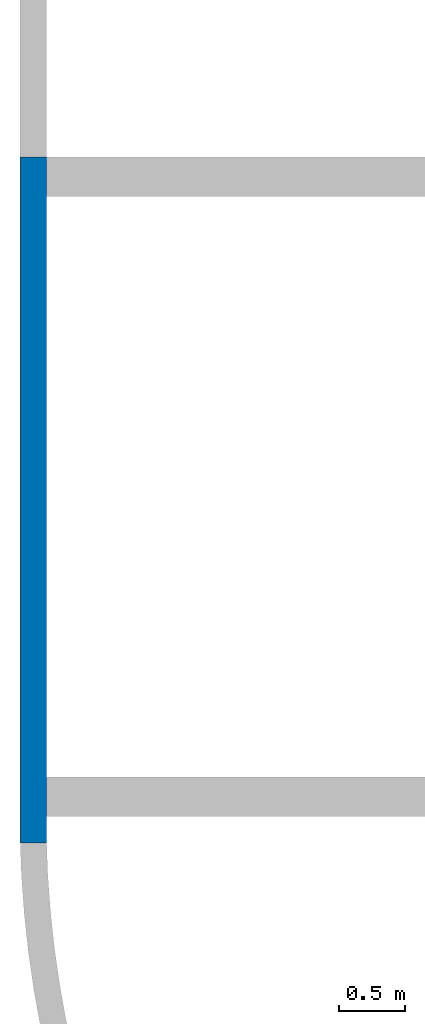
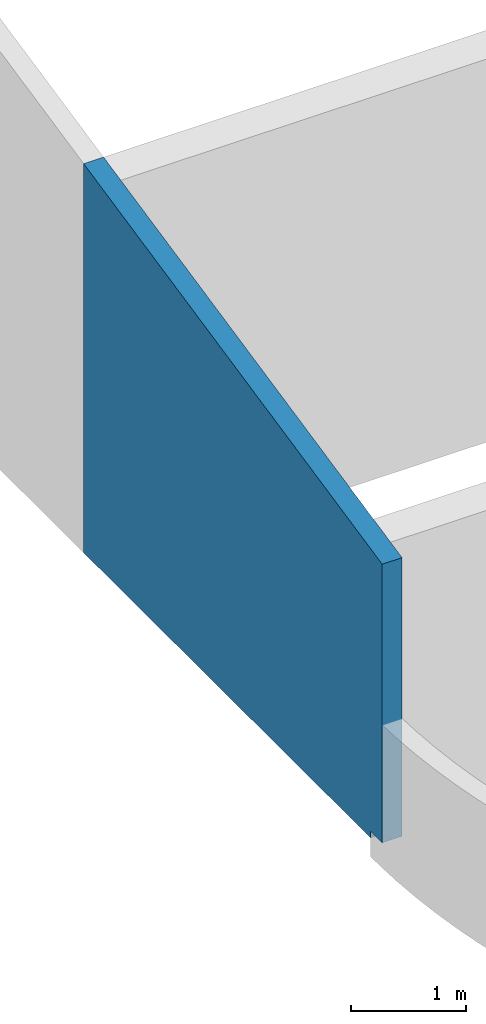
# One storey, part 1 of 7: 1 wall.
"""IFC4 building model written with IfcOpenShell, lengths in millimetres."""

import ifcopenshell
import ifcopenshell.guid

model = None  # the IFC model being written
_history = None  # IfcOwnerHistory: only IFC2X3 demands one
_inside = {}  # id of a spatial element -> (the spatial element, [elements in it])
_under = {}  # id of a project, library or spatial element -> (it, [spatial elements below it])
_declared = {}  # id of a project -> (the project, [libraries it declares])
_typed = {}  # id of a type object -> (the type object, [elements of that type])
_made_of = {}  # id of a material, layer set ... -> (it, [elements and type objects made of it])


def new_model(schema):
    """Start an empty IFC model of exactly this schema.

    Asked for "IFC4X3", IfcOpenShell would pick the latest addendum, in which some entities
    have other attributes; the version numbers below select the first issue.
    IFC2X3 requires an IfcOwnerHistory on every rooted entity: one is made here for all.
    """
    global model, _history
    if schema == "IFC4X3":
        model = ifcopenshell.file(schema_version=(4, 3, 0, 0))
    else:
        model = ifcopenshell.file(schema=schema)
    _inside.clear()
    _under.clear()
    _declared.clear()
    _typed.clear()
    _made_of.clear()
    _history = None
    if model.schema == "IFC2X3":
        org = make("IfcOrganization", Name="unknown")
        user = make(
            "IfcPersonAndOrganization",
            ThePerson=make("IfcPerson", FamilyName="unknown"),
            TheOrganization=org,
        )
        app = make(
            "IfcApplication",
            ApplicationDeveloper=org,
            Version="unknown",
            ApplicationFullName="unknown",
            ApplicationIdentifier="unknown",
        )
        _history = make(
            "IfcOwnerHistory",
            OwningUser=user,
            OwningApplication=app,
            ChangeAction="ADDED",
            CreationDate=0,
        )
    return model


def make(cls, **values):
    """One entity of the class cls with the attributes given. An attribute that is None is left unset."""
    return model.create_entity(
        cls, **{name: value for name, value in values.items() if value is not None}
    )


def entity(cls, *values):
    """Any entity or typed value of the class cls, its attributes in the order of the schema. None: left unset."""
    e = model.create_entity(cls)
    for i, value in enumerate(values):
        if value is not None:
            e[i] = value
    return e


def rooted(cls, **values):
    """An entity with a GlobalId (a new one), such as an element, a storey or a relation."""
    return make(cls, GlobalId=ifcopenshell.guid.new(), OwnerHistory=_history, **values)


def si_unit(unit_type, name, prefix=None):
    """IfcSIUnit, for example si_unit("LENGTHUNIT", "METRE", prefix="MILLI")."""
    return make("IfcSIUnit", UnitType=unit_type, Prefix=prefix, Name=name)


def converted_unit(unit_type, name, factor, base, dimensions=None, offset=None):
    """IfcConversionBasedUnit, such as the inch: factor (a typed value) times the base unit."""
    return make(
        "IfcConversionBasedUnit"
        if offset is None
        else "IfcConversionBasedUnitWithOffset",
        ConversionOffset=offset,
        Dimensions=None
        if dimensions is None
        else entity("IfcDimensionalExponents", *dimensions),
        UnitType=unit_type,
        Name=name,
        ConversionFactor=make(
            "IfcMeasureWithUnit", ValueComponent=factor, UnitComponent=base
        ),
    )


def derived_unit(unit_type, elements):
    """IfcDerivedUnit: a product of units, each with its exponent."""
    return make(
        "IfcDerivedUnit",
        Elements=[
            make("IfcDerivedUnitElement", Unit=unit, Exponent=power)
            for unit, power in elements
        ],
        UnitType=unit_type,
    )


def assignment(units):
    """IfcUnitAssignment: the units of a project."""
    return None if units is None else make("IfcUnitAssignment", Units=units)


def point(xyz):
    """IfcCartesianPoint."""
    return None if xyz is None else make("IfcCartesianPoint", Coordinates=xyz)


def direction(xyz):
    """IfcDirection."""
    return None if xyz is None else make("IfcDirection", DirectionRatios=xyz)


def frame(location, z_axis=None, x_axis=None):
    """IfcAxis2Placement3D, a coordinate frame: its origin and axes. An axis left out is left unset."""
    return make(
        "IfcAxis2Placement3D",
        Location=point(location),
        Axis=direction(z_axis),
        RefDirection=direction(x_axis),
    )


def origin_with_axes():
    """The frame at (0, 0, 0) with the z axis (0, 0, 1) and the x axis (1, 0, 0) written out."""
    return frame((0.0, 0.0, 0.0), z_axis=(0.0, 0.0, 1.0), x_axis=(1.0, 0.0, 0.0))


def place(relative_to, where):
    """IfcLocalPlacement: puts the frame where relative to a parent placement (None: the world)."""
    return make(
        "IfcLocalPlacement", PlacementRelTo=relative_to, RelativePlacement=where
    )


def context(
    kind, dimensions, precision=None, world=None, true_north=None, identifier=None
):
    """IfcGeometricRepresentationContext, for example the 3D "Model" context."""
    return make(
        "IfcGeometricRepresentationContext",
        ContextIdentifier=identifier,
        ContextType=kind,
        CoordinateSpaceDimension=dimensions,
        Precision=precision,
        WorldCoordinateSystem=world,
        TrueNorth=true_north,
    )


def subcontext(parent, identifier, kind, view, scale=None):
    """IfcGeometricRepresentationSubContext, for example "Body" below "Model"."""
    return make(
        "IfcGeometricRepresentationSubContext",
        ContextIdentifier=identifier,
        ContextType=kind,
        ParentContext=parent,
        TargetScale=scale,
        TargetView=view,
    )


def project(units=None, contexts=None):
    """IfcProject with its units and contexts."""
    return rooted(
        "IfcProject",
        Name="project",
        RepresentationContexts=contexts,
        UnitsInContext=assignment(units),
    )


def spatial(cls, under=None, at=None, **own):
    """A site, building, storey or space (cls), placed at a placement, below another one or the project."""
    s = rooted(cls, ObjectPlacement=at, **own)
    if under is not None:
        _under.setdefault(under.id(), (under, []))[1].append(s)
    return s


def point_list(points):
    """IfcCartesianPointList2D or 3D."""
    cls = (
        "IfcCartesianPointList2D" if len(points[0]) == 2 else "IfcCartesianPointList3D"
    )
    return make(cls, CoordList=points)


def polygons(points, faces, closed=None, point_numbers=None):
    """IfcPolygonalFaceSet: a face is its outer loop, then its inner loops; points numbered from 1."""
    made = []
    for loops in faces:
        if len(loops) == 1:
            made.append(make("IfcIndexedPolygonalFace", CoordIndex=loops[0]))
        else:
            made.append(
                make(
                    "IfcIndexedPolygonalFaceWithVoids",
                    CoordIndex=loops[0],
                    InnerCoordIndices=loops[1:],
                )
            )
    return make(
        "IfcPolygonalFaceSet",
        Coordinates=point_list(points),
        Closed=closed,
        Faces=made,
        PnIndex=point_numbers,
    )


def shape(context_of_items, identifier, shape_type, items):
    """IfcShapeRepresentation: the items that make up one representation, for example the "Body"."""
    return make(
        "IfcShapeRepresentation",
        ContextOfItems=context_of_items,
        RepresentationIdentifier=identifier,
        RepresentationType=shape_type,
        Items=items,
    )


def material(Name=None, Category=None):
    """IfcMaterial."""
    return make("IfcMaterial", Name=Name, Category=Category)


def constituent(of_material, Name=None, Category=None, fraction=None):
    """IfcMaterialConstituent: one of the materials an element consists of."""
    return make(
        "IfcMaterialConstituent",
        Name=Name,
        Material=of_material,
        Fraction=fraction,
        Category=Category,
    )


def constituent_set(constituents=None, Name=None):
    """IfcMaterialConstituentSet."""
    return make(
        "IfcMaterialConstituentSet", Name=Name, MaterialConstituents=constituents
    )


def made_of(thing, what):
    """Note that an element or type object is made of a material, layer set ...; save() writes the relation."""
    if what is not None:
        _made_of.setdefault(what.id(), (what, []))[1].append(thing)
    return thing


def type_object(cls, material=None, **own):
    """A type object (cls), such as IfcWallType, which elements share."""
    return made_of(rooted(cls, **own), material)


def element(
    cls,
    number,
    at=None,
    inside=None,
    cuts=None,
    type_object=None,
    material=None,
    context=None,
    identifier="Body",
    shape_type=None,
    held_by="IfcProductDefinitionShape",
    body=None,
    shapes=None,
    **own,
):
    """One element of the class cls, such as IfcWall. Its Tag is "e" and its number.

    at: its placement. inside: the storey or other place that contains it. cuts: it is an
    opening in that element (IfcRelVoidsElement). A single representation is given by context,
    identifier, shape_type and body (its items); several are given by shapes. held_by: the class
    of the entity that holds the representations. save() writes the other relations.
    """
    e = rooted(cls, Tag="e%d" % number, ObjectPlacement=at, **own)
    if body is not None:
        shapes = [shape(context, identifier, shape_type, body)]
    if shapes is not None:
        e.Representation = make(held_by, Representations=shapes)
    if inside is not None:
        _inside.setdefault(inside.id(), (inside, []))[1].append(e)
    if cuts is not None:
        rooted(
            "IfcRelVoidsElement", RelatingBuildingElement=cuts, RelatedOpeningElement=e
        )
    if type_object is not None:
        _typed.setdefault(type_object.id(), (type_object, []))[1].append(e)
    return made_of(e, material)


def aggregate(whole, parts):
    """IfcRelAggregates: a whole, such as a stair, and the parts it consists of."""
    return rooted("IfcRelAggregates", RelatingObject=whole, RelatedObjects=parts)


def save(model, path):
    """Write the relations noted so far, then the file.

    IfcRelAggregates (storeys below a building ...), IfcRelContainedInSpatialStructure (elements
    in a storey), IfcRelDefinesByType, IfcRelAssociatesMaterial and IfcRelDeclares: one each for
    every whole, place, type object, material and project.
    """
    for whole, parts in _under.values():
        aggregate(whole, parts)
    for where, things in _inside.values():
        rooted(
            "IfcRelContainedInSpatialStructure",
            RelatedElements=things,
            RelatingStructure=where,
        )
    for kind, things in _typed.values():
        rooted("IfcRelDefinesByType", RelatedObjects=things, RelatingType=kind)
    for what, things in _made_of.values():
        rooted("IfcRelAssociatesMaterial", RelatedObjects=things, RelatingMaterial=what)
    for by, libraries in _declared.values():
        rooted("IfcRelDeclares", RelatingContext=by, RelatedDefinitions=libraries)
    model.write(path)


model = new_model("IFC4")

# Units and contexts
model_context = context("Model", 3, precision=0.01, world=origin_with_axes(), true_north=direction((0.0, 1.0)))
body_context = subcontext(model_context, "Body", "Model", "MODEL_VIEW")
ifc_project = project(units=[si_unit("LENGTHUNIT", "METRE", prefix="MILLI"), si_unit("AREAUNIT", "SQUARE_METRE"), si_unit("VOLUMEUNIT", "CUBIC_METRE"), converted_unit("PLANEANGLEUNIT", "DEGREE", entity("IfcPlaneAngleMeasure", 0.0174532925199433), si_unit("PLANEANGLEUNIT", "RADIAN"), dimensions=[0, 0, 0, 0, 0, 0, 0]), converted_unit("TIMEUNIT", "Year", entity("IfcTimeMeasure", 31557600.0), si_unit("TIMEUNIT", "SECOND"), dimensions=[0, 0, 1, 0, 0, 0, 0]), si_unit("MASSUNIT", "GRAM", prefix="KILO"), si_unit("THERMODYNAMICTEMPERATUREUNIT", "DEGREE_CELSIUS"), si_unit("LUMINOUSINTENSITYUNIT", "LUMEN"), si_unit("ENERGYUNIT", "JOULE", prefix="MEGA"), derived_unit("THERMALCONDUCTANCEUNIT", [(si_unit("POWERUNIT", "WATT"), 1), (si_unit("LENGTHUNIT", "METRE"), -1), (si_unit("THERMODYNAMICTEMPERATUREUNIT", "KELVIN"), -1)]), derived_unit("SPECIFICHEATCAPACITYUNIT", [(si_unit("ENERGYUNIT", "JOULE"), 1), (si_unit("MASSUNIT", "GRAM", prefix="KILO"), -1), (si_unit("THERMODYNAMICTEMPERATUREUNIT", "KELVIN"), -1)]), derived_unit("MASSDENSITYUNIT", [(si_unit("MASSUNIT", "GRAM", prefix="KILO"), 1), (si_unit("VOLUMEUNIT", "CUBIC_METRE"), -1)])], contexts=[model_context])

# Site, building, storey
site_placement = place(None, origin_with_axes())
site = spatial("IfcSite", under=ifc_project, at=site_placement, Name="Exteriér", CompositionType="ELEMENT")
building_placement = place(site_placement, origin_with_axes())
building = spatial("IfcBuilding", under=site, at=building_placement, Name="Univerzitní lezecké centrum", CompositionType="ELEMENT")
storey_placement = place(building_placement, frame((0.0, 0.0, 9600.000000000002), z_axis=(0.0, 0.0, 1.0), x_axis=(1.0, 0.0, 0.0)))
storey = spatial("IfcBuildingStorey", under=building, at=storey_placement, Name="4.NP", CompositionType="ELEMENT", Elevation=9600.0)

# Wall
ifc_material = material(Name="Beton vyztužený - vnější svislé kce")
ifc_constituent = constituent(ifc_material, Name="Beton vyztužený - vnější svislé kce")
ifc_constituent_set = constituent_set(constituents=[ifc_constituent], Name="!Vnější betonová stěna 200 mm")
wall_type = type_object("IfcWallType", Name="!Vnější betonová stěna 200 mm 200", PredefinedType="NOTDEFINED")
wall_placement = place(storey_placement, frame((-5550.148351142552, 4700.000000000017, -120.000000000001), z_axis=(0.0, 0.0, 1.0), x_axis=(0.0, -1.0, 0.0)))
element("IfcWall", 1, at=wall_placement, inside=storey, type_object=wall_type, material=ifc_constituent_set, Name="St01", PredefinedType="NOTDEFINED", context=body_context, shape_type="Tessellation", body=[
    polygons([(150.7121686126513, -200.0000000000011, 4104.636251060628), (150.7121686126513, 1.837315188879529e-05, 4104.636251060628), (0.0, 1.862847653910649e-07, 4136.671110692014), (0.0, -199.9999999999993, 4136.671110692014), (5200.006158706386, 8.38713454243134e-06, 3031.375681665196), (5200.006158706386, -200.0000000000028, 3031.375681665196), (5200.000000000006, 0.0, 1320.0), (5200.000000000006, 0.0, 69.00000000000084), (5000.000000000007, 0.0, 69.00000000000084), (5000.000000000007, 0.0, 0.0), (0.0, 0.0, 0.0), (0.0, -200.0000000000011, 0.0), (5000.000000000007, -200.0000000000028, 0.0), (5000.000000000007, -200.0000000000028, 69.00000000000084), (5200.000000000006, -200.0000000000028, 69.00000000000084), (5200.000000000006, -200.0000000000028, 1320.0)], [[[1, 2, 3, 4]], [[5, 2, 1, 6]], [[2, 5, 7, 8, 9, 10, 11, 3]], [[12, 4, 3, 11]], [[6, 1, 4, 12, 13, 14, 15, 16]], [[5, 6, 16, 7]], [[7, 16, 15, 8]], [[8, 15, 14, 9]], [[10, 9, 14, 13]], [[10, 13, 12, 11]]], closed=True),
])

save(model, "model.ifc")
